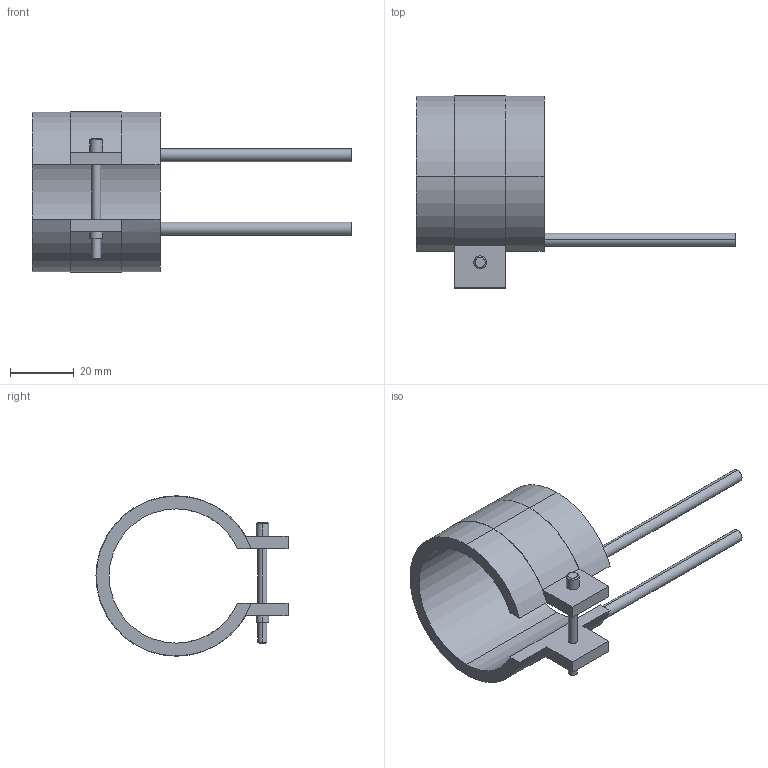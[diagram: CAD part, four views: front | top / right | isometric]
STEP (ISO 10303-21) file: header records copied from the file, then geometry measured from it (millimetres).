
FILE_DESCRIPTION(('CATIA V5 STEP Exchange'),'2;1');
FILE_NAME('C:\Users\Utente\Desktop\IO LAVORO\3D X SITO CF\X SITO\PLASTICA\RF2\14042040.stp','2021-03-31T12:02:23+00:00',('none'),('none'),'CATIA Version 5 Release 20 GA (IN-10)','CATIA V5 STEP AP203','none');
FILE_SCHEMA(('CONFIG_CONTROL_DESIGN'));
Length unit declared in the file: millimetre
Products named in the file (1): 14042040
Bounding box: 100 x 60.1 x 50.2 mm (x, y, z)
Volume: 23856 mm3; surface area: 14316.2 mm2
Topology: 1 solids, 1 shells, 45 faces, 116 edges, 76 vertices
Faces by surface type: cylinder 24, plane 17, cone 4
Entity records: 1412 total; most frequent: CARTESIAN_POINT 290, ORIENTED_EDGE 232, DIRECTION 194, EDGE_CURVE 116, AXIS2_PLACEMENT_3D 102, VERTEX_POINT 76, CIRCLE 60, VECTOR 52
